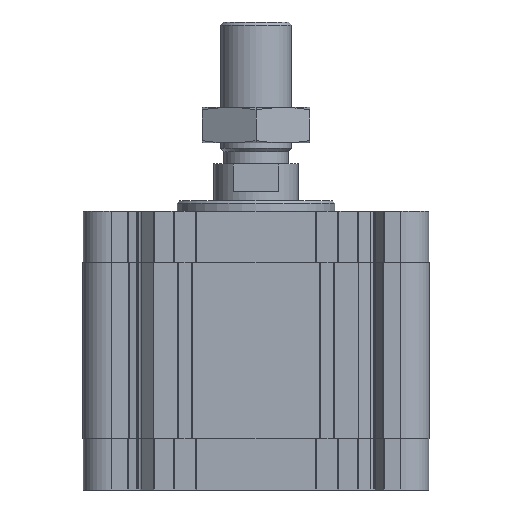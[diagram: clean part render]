
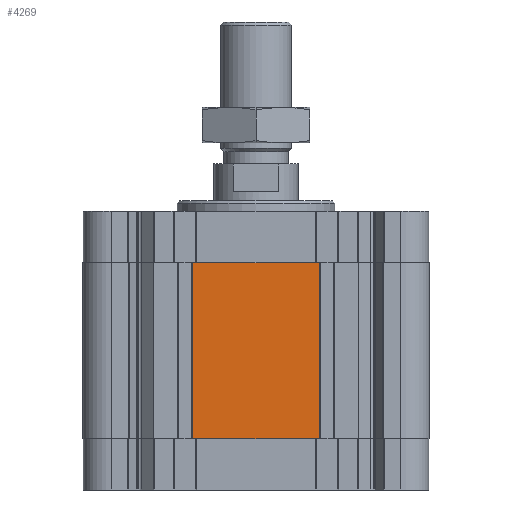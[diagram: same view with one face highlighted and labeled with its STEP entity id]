
A CAD part, front view. The second image highlights one B-rep face of the part: STEP entity #4269.
In plain terms, the highlighted planar face has unit normal (0, -1, 0).
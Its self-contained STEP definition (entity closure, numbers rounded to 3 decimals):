
#1378 = FACE_OUTER_BOUND ( 'NONE', #6265, .T. ) ;
#1495 = CARTESIAN_POINT ( 'NONE',  ( -24., -66., -86.5 ) ) ;
#2010 = CARTESIAN_POINT ( 'NONE',  ( 24., -66., -86.5 ) ) ;
#2155 = DIRECTION ( 'NONE',  ( 1., 0., 0. ) ) ;
#2684 = DIRECTION ( 'NONE',  ( -1., 0., 0. ) ) ;
#2962 = EDGE_CURVE ( 'NONE', #3785, #16675, #18575, .T. ) ;
#3364 = LINE ( 'NONE', #18260, #21109 ) ;
#3401 = VECTOR ( 'NONE', #8053, 1000. ) ;
#3785 = VERTEX_POINT ( 'NONE', #1495 ) ;
#4269 = ADVANCED_FACE ( 'NONE', ( #1378 ), #14425, .T. ) ;
#4318 = CARTESIAN_POINT ( 'NONE',  ( -24., -66., -86.5 ) ) ;
#6265 = EDGE_LOOP ( 'NONE', ( #6685, #16758, #7164, #11902 ) ) ;
#6440 = EDGE_CURVE ( 'NONE', #19245, #20974, #3364, .T. ) ;
#6685 = ORIENTED_EDGE ( 'NONE', *, *, #6440, .F. ) ;
#7164 = ORIENTED_EDGE ( 'NONE', *, *, #2962, .T. ) ;
#8053 = DIRECTION ( 'NONE',  ( 0., 0., 1. ) ) ;
#11016 = DIRECTION ( 'NONE',  ( 0., 0., 1. ) ) ;
#11902 = ORIENTED_EDGE ( 'NONE', *, *, #15561, .T. ) ;
#12132 = CARTESIAN_POINT ( 'NONE',  ( -24., -66., -19.5 ) ) ;
#12638 = CARTESIAN_POINT ( 'NONE',  ( 24., -66., -19.5 ) ) ;
#13536 = VECTOR ( 'NONE', #2155, 1000. ) ;
#13595 = CARTESIAN_POINT ( 'NONE',  ( -24., -66., -86.5 ) ) ;
#13881 = EDGE_CURVE ( 'NONE', #3785, #19245, #21332, .T. ) ;
#14278 = LINE ( 'NONE', #14595, #3401 ) ;
#14425 = PLANE ( 'NONE',  #16654 ) ;
#14595 = CARTESIAN_POINT ( 'NONE',  ( 24., -66., -86.5 ) ) ;
#15340 = DIRECTION ( 'NONE',  ( 1., 0., 0. ) ) ;
#15561 = EDGE_CURVE ( 'NONE', #16675, #20974, #14278, .T. ) ;
#16654 = AXIS2_PLACEMENT_3D ( 'NONE', #4318, #17707, #2684 ) ;
#16675 = VERTEX_POINT ( 'NONE', #2010 ) ;
#16758 = ORIENTED_EDGE ( 'NONE', *, *, #13881, .F. ) ;
#17707 = DIRECTION ( 'NONE',  ( 0., -1., 0. ) ) ;
#18260 = CARTESIAN_POINT ( 'NONE',  ( -24., -66., -19.5 ) ) ;
#18575 = LINE ( 'NONE', #13595, #13536 ) ;
#19245 = VERTEX_POINT ( 'NONE', #12132 ) ;
#20818 = VECTOR ( 'NONE', #11016, 1000. ) ;
#20916 = CARTESIAN_POINT ( 'NONE',  ( -24., -66., -86.5 ) ) ;
#20974 = VERTEX_POINT ( 'NONE', #12638 ) ;
#21109 = VECTOR ( 'NONE', #15340, 1000. ) ;
#21332 = LINE ( 'NONE', #20916, #20818 ) ;
